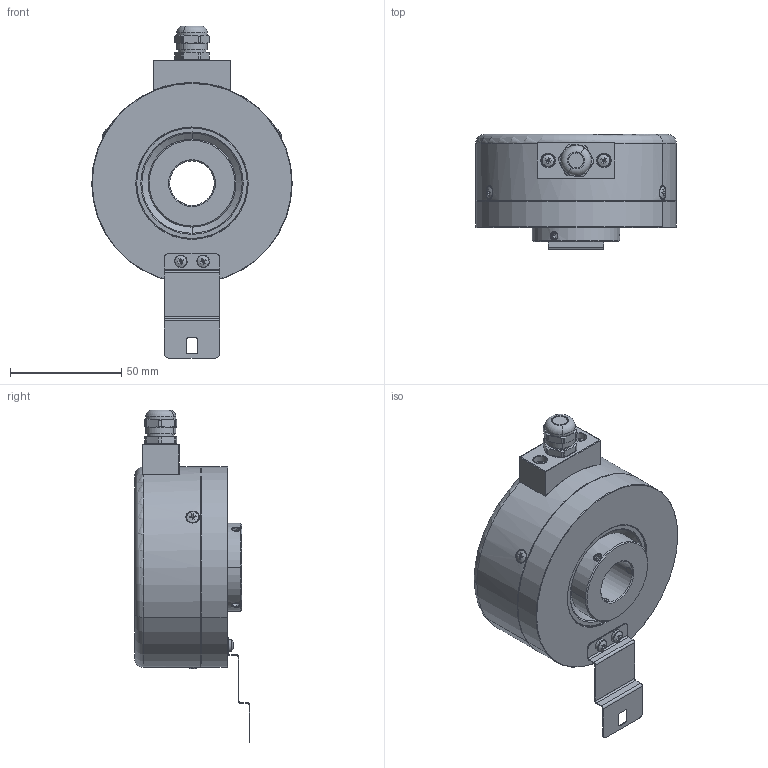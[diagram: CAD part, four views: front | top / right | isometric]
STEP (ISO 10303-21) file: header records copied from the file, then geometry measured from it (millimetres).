
FILE_DESCRIPTION (( 'STEP AP214' ), '1' );
FILE_NAME ('PKK21x30.STEP', '2024-12-17T10:20:49', ( '' ), ( '' ), 'SwSTEP 2.0', 'SolidWorks 2019', '' );
FILE_SCHEMA (( 'AUTOMOTIVE_DESIGN' ));
Length unit declared in the file: millimetre
Products named in the file (1): PKK21x30
Bounding box: 90 x 51.81 x 149.07 mm (x, y, z)
Volume: 193048.5 mm3; surface area: 74090.1 mm2
Topology: 1 solids, 17 shells, 1034 faces, 2494 edges, 1549 vertices
Faces by surface type: plane 322, cylinder 250, bspline 242, cone 186, sphere 18, torus 16
Entity records: 49885 total; most frequent: CARTESIAN_POINT 15372, ORIENTED_EDGE 4952, DIRECTION 4818, EDGE_CURVE 2476, AXIS2_PLACEMENT_3D 2050, VERTEX_POINT 1549, CIRCLE 1257, EDGE_LOOP 1145
